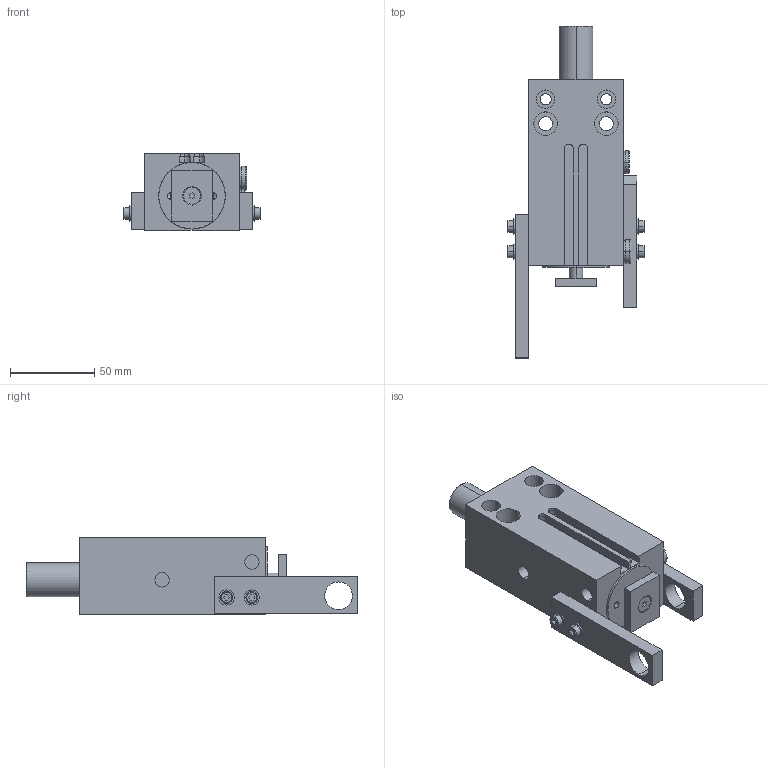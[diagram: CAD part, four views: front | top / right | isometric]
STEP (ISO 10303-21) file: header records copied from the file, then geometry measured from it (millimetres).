
FILE_DESCRIPTION (( 'STEP AP203' ), '1' );
FILE_NAME ('DI-490-I.STEP', '2009-10-02T07:58:16', ( '' ), ( '' ), 'SwSTEP 2.0', 'SolidWorks 2007', '' );
FILE_SCHEMA (( 'CONFIG_CONTROL_DESIGN' ));
Length unit declared in the file: millimetre
Products named in the file (1): DI-490-I
Bounding box: 81.8 x 197 x 45.5 mm (x, y, z)
Volume: 301924.9 mm3; surface area: 48130.6 mm2
Topology: 1 solids, 1 shells, 242 faces, 579 edges, 359 vertices
Faces by surface type: plane 126, cylinder 84, cone 22, torus 10
Entity records: 7024 total; most frequent: DIRECTION 1269, CARTESIAN_POINT 1171, ORIENTED_EDGE 1138, EDGE_CURVE 569, AXIS2_PLACEMENT_3D 457, VERTEX_POINT 359, VECTOR 355, LINE 355
